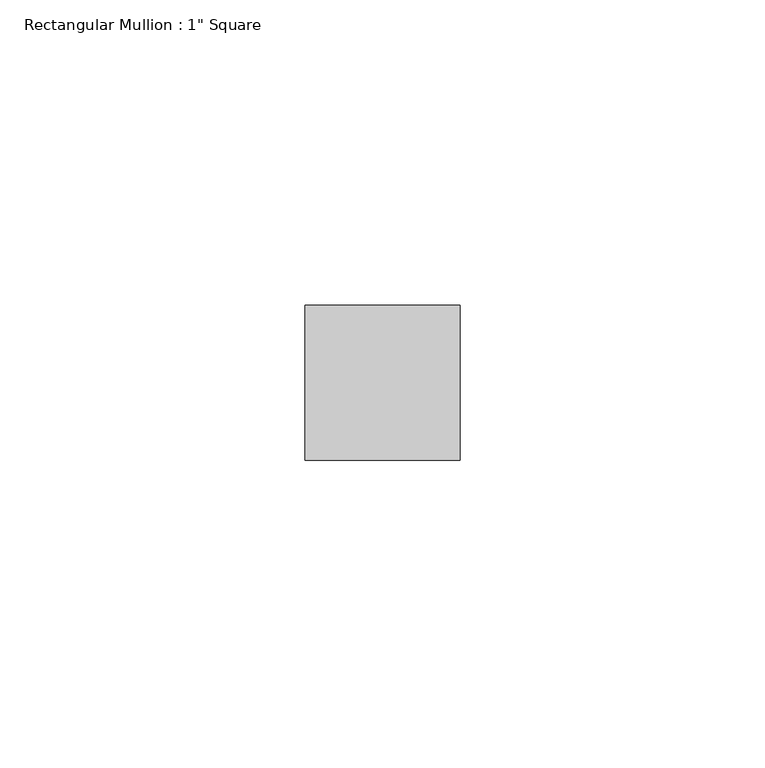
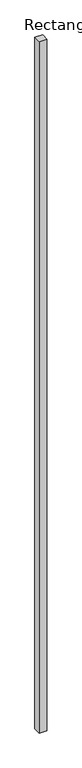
"""IFC4 building model written with IfcOpenShell, lengths in millimetres: member geometry."""

from ifc_helpers import new_model, si_unit, frame, origin, place, context, project, spatial, polyline, outline, extrude, source, transform, mapped, element, save


def member_6bd78d2c(model_context):
    return source(origin(), model_context, "Body", "SweptSolid", [
        extrude(outline(polyline([(12.7, 44.45), (12.7, 19.05), (-12.7, 19.05), (-12.7, 44.45), (12.7, 44.45)])), frame((0.0, 0.0, -2438.4), z_axis=(0.0, 0.0, 1.0), x_axis=(1.0, 0.0, 0.0)), (0.0, 0.0, 1.0), 2438.4),
    ])


if __name__ == "__main__":
    model = new_model("IFC4")
    model_context = context("Model", 3, world=origin())
    ifc_project = project(units=[si_unit("LENGTHUNIT", "METRE", prefix="MILLI")], contexts=[model_context])
    site = spatial("IfcSite", under=ifc_project)
    building = spatial("IfcBuilding", under=site)
    placement = place(None, origin())
    member_shape = member_6bd78d2c(model_context)
    element("IfcMember", 1, ObjectType="Rectangular Mullion : 1\" Square", at=placement, inside=building, context=model_context, shape_type="MappedRepresentation", body=[
        mapped(member_shape, transform((0.0, 0.0, 0.0), x_axis=(1.0, 0.0, 0.0), y_axis=(0.0, 1.0, 0.0), z_axis=(0.0, 0.0, 1.0))),
    ])
    save(model, "model.ifc")
